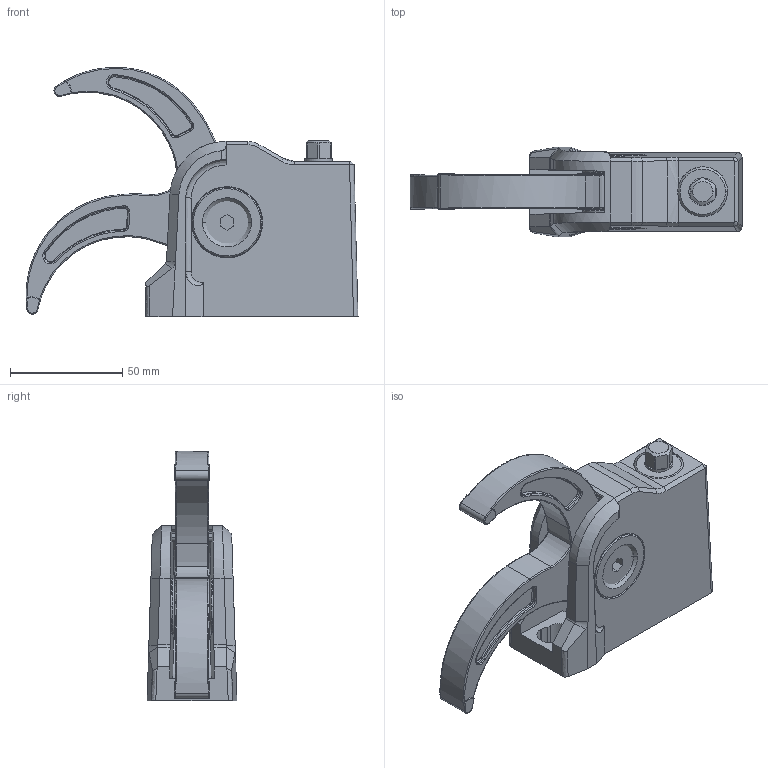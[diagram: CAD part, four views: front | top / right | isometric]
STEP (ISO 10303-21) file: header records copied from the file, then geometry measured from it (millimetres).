
FILE_DESCRIPTION( ( 'STEP AP214' ), '1' );
FILE_NAME( 'O:/CAD_Daten_Platzhalter/BAS u BSP/BSP-CB10-6/BSP-CB10-6.stp', ' ', ( ' ' ), ( ' ' ), 'PSStep 11.0', ' ', ' ' );
FILE_SCHEMA( ( 'AUTOMOTIVE_DESIGN { 1 0 10303 214 1 1 1 1 }' ) );
Length unit declared in the file: metre
Products named in the file (9): 1; 2; 3; 4; 5; 6; 7; 8; 9
Bounding box: 147.83 x 40 x 110.97 mm (x, y, z)
Volume: 236050.3 mm3; surface area: 74085.8 mm2
Topology: 9 solids, 9 shells, 479 faces, 1130 edges, 666 vertices
Faces by surface type: bspline 479
Entity records: 30360 total; most frequent: CARTESIAN_POINT 20062, ORIENTED_EDGE 2218, EDGE_CURVE 1109, VERTEX_POINT 666, B_SPLINE_CURVE_WITH_KNOTS 664, EDGE_LOOP 517, STYLED_ITEM 479, PRESENTATION_STYLE_ASSIGNMENT 479
